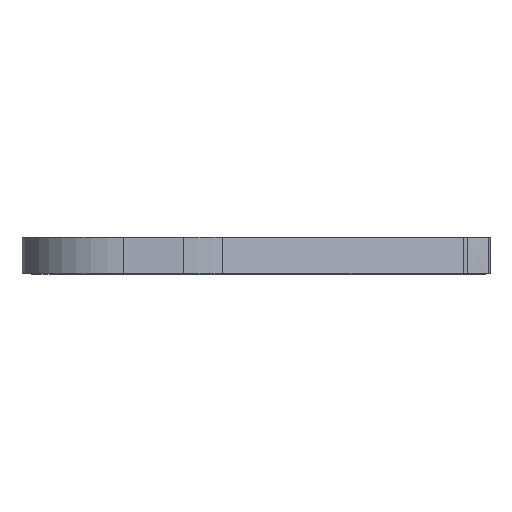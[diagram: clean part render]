
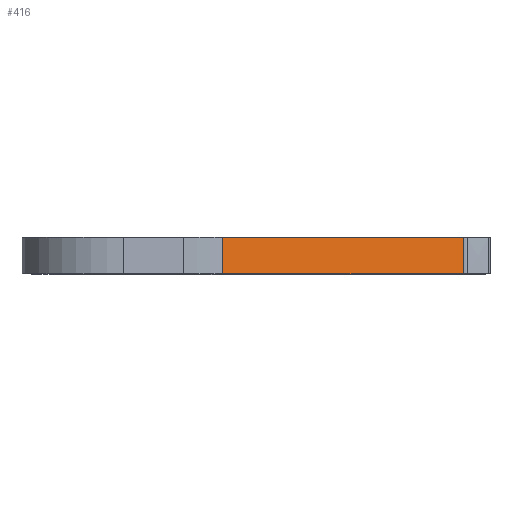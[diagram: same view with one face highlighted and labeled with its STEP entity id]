
A CAD part, top view. The second image highlights one B-rep face of the part: STEP entity #416.
In plain terms, the highlighted planar face has unit normal (0.301, 0, 0.954).
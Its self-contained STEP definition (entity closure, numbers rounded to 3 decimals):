
#389=AXIS2_PLACEMENT_3D('Plane Axis2P3D',#386,#387,#388) ;
#364=CARTESIAN_POINT('Vertex',(-271.318,-156.5,-33.702)) ;
#367=CARTESIAN_POINT('Line Origine',(-271.318,-151.5,-33.702)) ;
#371=CARTESIAN_POINT('Vertex',(-271.318,-150.5,-33.702)) ;
#386=CARTESIAN_POINT('Axis2P3D Location',(-271.318,-156.5,-33.702)) ;
#391=CARTESIAN_POINT('Line Origine',(-231.505,-153.5,-46.255)) ;
#395=CARTESIAN_POINT('Vertex',(-231.505,-156.5,-46.255)) ;
#397=CARTESIAN_POINT('Vertex',(-231.505,-150.5,-46.255)) ;
#400=CARTESIAN_POINT('Line Origine',(-251.411,-150.5,-39.978)) ;
#405=CARTESIAN_POINT('Line Origine',(-251.411,-156.5,-39.978)) ;
#368=DIRECTION('Vector Direction',(0.,-1.,0.)) ;
#387=DIRECTION('Axis2P3D Direction',(0.301,-0.,0.954)) ;
#388=DIRECTION('Axis2P3D XDirection',(0.954,0.,-0.301)) ;
#392=DIRECTION('Vector Direction',(0.,1.,0.)) ;
#401=DIRECTION('Vector Direction',(-0.954,0.,0.301)) ;
#406=DIRECTION('Vector Direction',(-0.954,0.,0.301)) ;
#369=VECTOR('Line Direction',#368,1.) ;
#393=VECTOR('Line Direction',#392,1.) ;
#402=VECTOR('Line Direction',#401,1.) ;
#407=VECTOR('Line Direction',#406,1.) ;
#411=ORIENTED_EDGE('',*,*,#399,.T.) ;
#412=ORIENTED_EDGE('',*,*,#404,.T.) ;
#413=ORIENTED_EDGE('',*,*,#373,.F.) ;
#414=ORIENTED_EDGE('',*,*,#409,.F.) ;
#416=ADVANCED_FACE('\X2\51E04F554F53\X0\.2',(#415),#390,.T.) ;
#373=EDGE_CURVE('',#365,#372,#370,.F.) ;
#399=EDGE_CURVE('',#396,#398,#394,.T.) ;
#404=EDGE_CURVE('',#398,#372,#403,.T.) ;
#409=EDGE_CURVE('',#396,#365,#408,.T.) ;
#410=EDGE_LOOP('',(#411,#412,#413,#414)) ;
#415=FACE_OUTER_BOUND('',#410,.T.) ;
#370=LINE('Line',#367,#369) ;
#394=LINE('Line',#391,#393) ;
#403=LINE('Line',#400,#402) ;
#408=LINE('Line',#405,#407) ;
#390=PLANE('Plane',#389) ;
#365=VERTEX_POINT('',#364) ;
#372=VERTEX_POINT('',#371) ;
#396=VERTEX_POINT('',#395) ;
#398=VERTEX_POINT('',#397) ;
